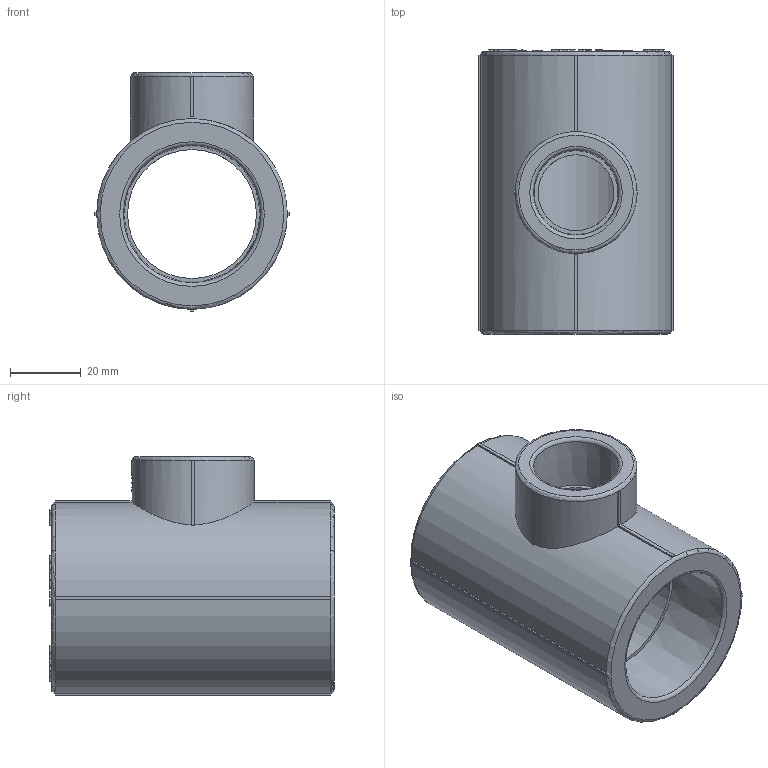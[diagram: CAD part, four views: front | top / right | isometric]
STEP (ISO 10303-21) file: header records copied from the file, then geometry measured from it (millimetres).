
FILE_DESCRIPTION(('STEP AP203'), '1');
FILE_NAME('ÂÐ.752241.061 - VTp.735.0.040025040', '', ('UNSPECIFIED'), ('UNSPECIFIED'), 'C3D Converter', 'C3D Toolkit', '');
FILE_SCHEMA(('CONFIG_CONTROL_DESIGN'));
Length unit declared in the file: millimetre
Products named in the file (1): ВР.752241.061
Bounding box: 55 x 80.5 x 67.5 mm (x, y, z)
Volume: 97797.8 mm3; surface area: 28259 mm2
Topology: 1 solids, 1 shells, 1116 faces, 3133 edges, 2080 vertices
Faces by surface type: extrusion 654, plane 418, cylinder 35, torus 6, cone 3
Full cylindrical faces by diameter (mm): 6 x1, 21.5 x1, 36.5 x1
Entity records: 41104 total; most frequent: CARTESIAN_POINT 15740, ORIENTED_EDGE 6242, DIRECTION 3141, EDGE_CURVE 3121, VECTOR 2125, VERTEX_POINT 2080, B_SPLINE_CURVE_WITH_KNOTS 1969, LINE 1471
